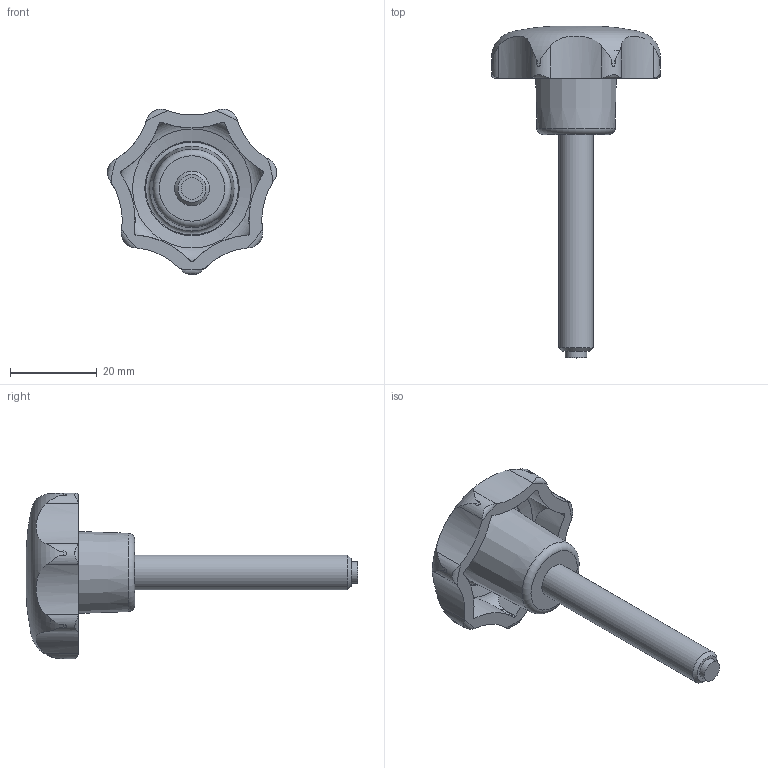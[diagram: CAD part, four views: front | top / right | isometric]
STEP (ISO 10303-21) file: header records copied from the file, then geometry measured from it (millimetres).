
FILE_DESCRIPTION( ( 'STEP AP203' ), '1' );
FILE_NAME( 'C:/Temp/Ganter_Step_05_03_2020/data/2_2/gn6336_10/Star knob GN 6336.10-40-M8-50-KU.stp', '2020-03-05T12:04:26', ( 'License CC BY-ND 4.0' ), ( 'CADENAS' ), ' ', 'PARTsolutions', ' ' );
FILE_SCHEMA( ( 'CONFIG_CONTROL_DESIGN' ) );
Length unit declared in the file: millimetre
Products named in the file (1): _Star knob GN 6336.10-40-M8-50-KU
Bounding box: 39.03 x 76.67 x 38.23 mm (x, y, z)
Volume: 14047.9 mm3; surface area: 6396.7 mm2
Topology: 1 solids, 1 shells, 64 faces, 188 edges, 128 vertices
Faces by surface type: cylinder 30, cone 17, torus 12, plane 4, bspline 1
Full cylindrical faces by diameter (mm): 5 x1, 8 x1
Entity records: 3177 total; most frequent: CARTESIAN_POINT 1616, ORIENTED_EDGE 346, DIRECTION 264, EDGE_CURVE 173, VERTEX_POINT 126, AXIS2_PLACEMENT_3D 118, B_SPLINE_CURVE_WITH_KNOTS 91, EDGE_LOOP 77
